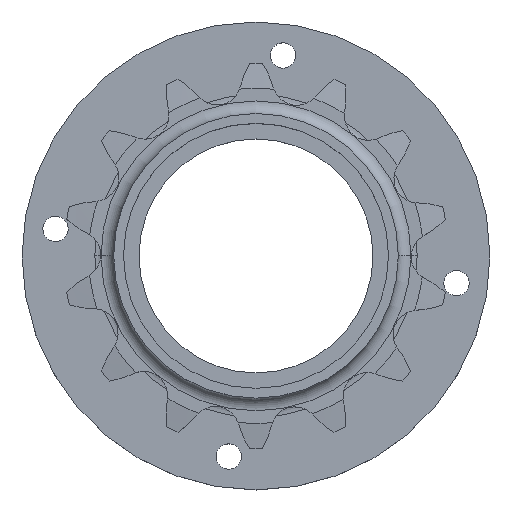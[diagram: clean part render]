
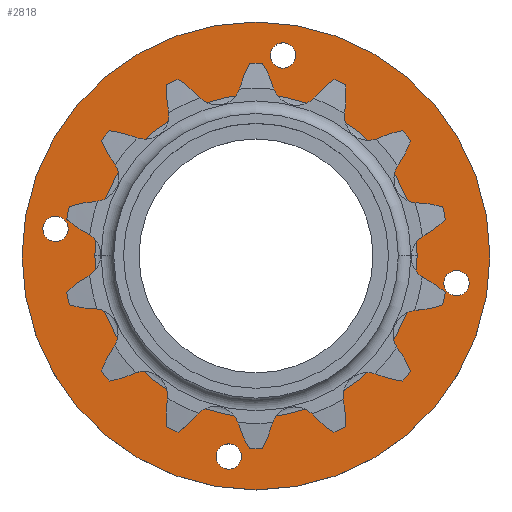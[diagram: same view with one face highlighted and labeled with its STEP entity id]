
A CAD part, top view. The second image highlights one B-rep face of the part: STEP entity #2818.
In plain terms, the highlighted planar face has unit normal (0, 0, 1).
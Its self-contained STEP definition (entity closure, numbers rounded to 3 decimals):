
#131=CARTESIAN_POINT('',(-4.291,-31.711,-13.));
#132=DIRECTION('',(0.,0.,1.));
#133=DIRECTION('',(0.,-1.,0.));
#134=AXIS2_PLACEMENT_3D('',#131,#132,#133);
#136=CARTESIAN_POINT('',(-4.291,-31.711,-13.));
#137=DIRECTION('',(0.,0.,1.));
#138=DIRECTION('',(0.,1.,0.));
#139=AXIS2_PLACEMENT_3D('',#136,#137,#138);
#141=CARTESIAN_POINT('',(31.711,-4.291,-13.));
#142=DIRECTION('',(0.,0.,1.));
#143=DIRECTION('',(0.,-1.,0.));
#144=AXIS2_PLACEMENT_3D('',#141,#142,#143);
#146=CARTESIAN_POINT('',(31.711,-4.291,-13.));
#147=DIRECTION('',(0.,0.,1.));
#148=DIRECTION('',(0.,1.,0.));
#149=AXIS2_PLACEMENT_3D('',#146,#147,#148);
#151=CARTESIAN_POINT('',(0.,0.,-13.));
#152=DIRECTION('',(0.,0.,-1.));
#153=DIRECTION('',(0.,-1.,0.));
#154=AXIS2_PLACEMENT_3D('',#151,#152,#153);
#156=CARTESIAN_POINT('',(0.,0.,-13.));
#157=DIRECTION('',(0.,0.,-1.));
#158=DIRECTION('',(0.,1.,0.));
#159=AXIS2_PLACEMENT_3D('',#156,#157,#158);
#161=CARTESIAN_POINT('',(-31.711,4.291,-13.));
#162=DIRECTION('',(0.,0.,1.));
#163=DIRECTION('',(0.998,0.069,0.));
#164=AXIS2_PLACEMENT_3D('',#161,#162,#163);
#166=CARTESIAN_POINT('',(-31.711,4.291,-13.));
#167=DIRECTION('',(0.,0.,1.));
#168=DIRECTION('',(-0.998,-0.069,0.));
#169=AXIS2_PLACEMENT_3D('',#166,#167,#168);
#171=CARTESIAN_POINT('',(4.291,31.711,-13.));
#172=DIRECTION('',(0.,0.,1.));
#173=DIRECTION('',(0.998,0.069,0.));
#174=AXIS2_PLACEMENT_3D('',#171,#172,#173);
#176=CARTESIAN_POINT('',(4.291,31.711,-13.));
#177=DIRECTION('',(0.,0.,1.));
#178=DIRECTION('',(-0.998,-0.069,0.));
#179=AXIS2_PLACEMENT_3D('',#176,#177,#178);
#181=CARTESIAN_POINT('',(0.,0.,-13.));
#182=DIRECTION('',(0.,0.,-1.));
#183=DIRECTION('',(1.,0.,0.));
#184=AXIS2_PLACEMENT_3D('',#181,#182,#183);
#186=CARTESIAN_POINT('',(0.,0.,-13.));
#187=DIRECTION('',(0.,0.,-1.));
#188=DIRECTION('',(-1.,0.,0.));
#189=AXIS2_PLACEMENT_3D('',#186,#187,#188);
#2345=CARTESIAN_POINT('',(-4.291,-33.711,-13.));
#2346=CARTESIAN_POINT('',(-4.291,-29.711,-13.));
#2347=VERTEX_POINT('',#2345);
#2348=VERTEX_POINT('',#2346);
#2349=CARTESIAN_POINT('',(31.711,-6.291,-13.));
#2350=CARTESIAN_POINT('',(31.711,-2.291,-13.));
#2351=VERTEX_POINT('',#2349);
#2352=VERTEX_POINT('',#2350);
#2353=CARTESIAN_POINT('',(-29.716,4.429,-13.));
#2354=CARTESIAN_POINT('',(-33.706,4.152,-13.));
#2355=VERTEX_POINT('',#2353);
#2356=VERTEX_POINT('',#2354);
#2357=CARTESIAN_POINT('',(6.286,31.85,-13.));
#2358=CARTESIAN_POINT('',(2.295,31.572,-13.));
#2359=VERTEX_POINT('',#2357);
#2360=VERTEX_POINT('',#2358);
#2365=CARTESIAN_POINT('',(25.5,0.,-13.));
#2366=CARTESIAN_POINT('',(-25.5,0.,-13.));
#2367=VERTEX_POINT('',#2365);
#2368=VERTEX_POINT('',#2366);
#2609=CARTESIAN_POINT('',(0.,-37.,-13.));
#2610=CARTESIAN_POINT('',(0.,37.,-13.));
#2611=VERTEX_POINT('',#2609);
#2612=VERTEX_POINT('',#2610);
#2779=CARTESIAN_POINT('',(0.,0.,-13.));
#2780=DIRECTION('',(0.,0.,-1.));
#2781=DIRECTION('',(0.,-1.,0.));
#2782=AXIS2_PLACEMENT_3D('',#2779,#2780,#2781);
#2783=PLANE('',#2782);
#2784=ORIENTED_EDGE('',*,*,#2759,.T.);
#2785=ORIENTED_EDGE('',*,*,#2773,.T.);
#2786=EDGE_LOOP('',(#2784,#2785));
#2787=FACE_OUTER_BOUND('',#2786,.F.);
#2789=ORIENTED_EDGE('',*,*,#2788,.T.);
#2791=ORIENTED_EDGE('',*,*,#2790,.T.);
#2792=EDGE_LOOP('',(#2789,#2791));
#2793=FACE_BOUND('',#2792,.F.);
#2795=ORIENTED_EDGE('',*,*,#2794,.T.);
#2797=ORIENTED_EDGE('',*,*,#2796,.T.);
#2798=EDGE_LOOP('',(#2795,#2797));
#2799=FACE_BOUND('',#2798,.F.);
#2801=ORIENTED_EDGE('',*,*,#2800,.T.);
#2803=ORIENTED_EDGE('',*,*,#2802,.T.);
#2804=EDGE_LOOP('',(#2801,#2803));
#2805=FACE_BOUND('',#2804,.F.);
#2807=ORIENTED_EDGE('',*,*,#2806,.T.);
#2809=ORIENTED_EDGE('',*,*,#2808,.T.);
#2810=EDGE_LOOP('',(#2807,#2809));
#2811=FACE_BOUND('',#2810,.F.);
#2813=ORIENTED_EDGE('',*,*,#2812,.F.);
#2815=ORIENTED_EDGE('',*,*,#2814,.F.);
#2816=EDGE_LOOP('',(#2813,#2815));
#2817=FACE_BOUND('',#2816,.F.);
#2818=ADVANCED_FACE('',(#2787,#2793,#2799,#2805,#2811,#2817),#2783,.F.);
#135=CIRCLE('',#134,2.);
#140=CIRCLE('',#139,2.);
#145=CIRCLE('',#144,2.);
#150=CIRCLE('',#149,2.);
#155=CIRCLE('',#154,37.);
#160=CIRCLE('',#159,37.);
#165=CIRCLE('',#164,2.);
#170=CIRCLE('',#169,2.);
#175=CIRCLE('',#174,2.);
#180=CIRCLE('',#179,2.);
#185=CIRCLE('',#184,25.5);
#190=CIRCLE('',#189,25.5);
#2759=EDGE_CURVE('',#2611,#2612,#155,.T.);
#2773=EDGE_CURVE('',#2612,#2611,#160,.T.);
#2788=EDGE_CURVE('',#2351,#2352,#145,.T.);
#2790=EDGE_CURVE('',#2352,#2351,#150,.T.);
#2794=EDGE_CURVE('',#2347,#2348,#135,.T.);
#2796=EDGE_CURVE('',#2348,#2347,#140,.T.);
#2800=EDGE_CURVE('',#2355,#2356,#165,.T.);
#2802=EDGE_CURVE('',#2356,#2355,#170,.T.);
#2806=EDGE_CURVE('',#2359,#2360,#175,.T.);
#2808=EDGE_CURVE('',#2360,#2359,#180,.T.);
#2812=EDGE_CURVE('',#2367,#2368,#185,.T.);
#2814=EDGE_CURVE('',#2368,#2367,#190,.T.);
